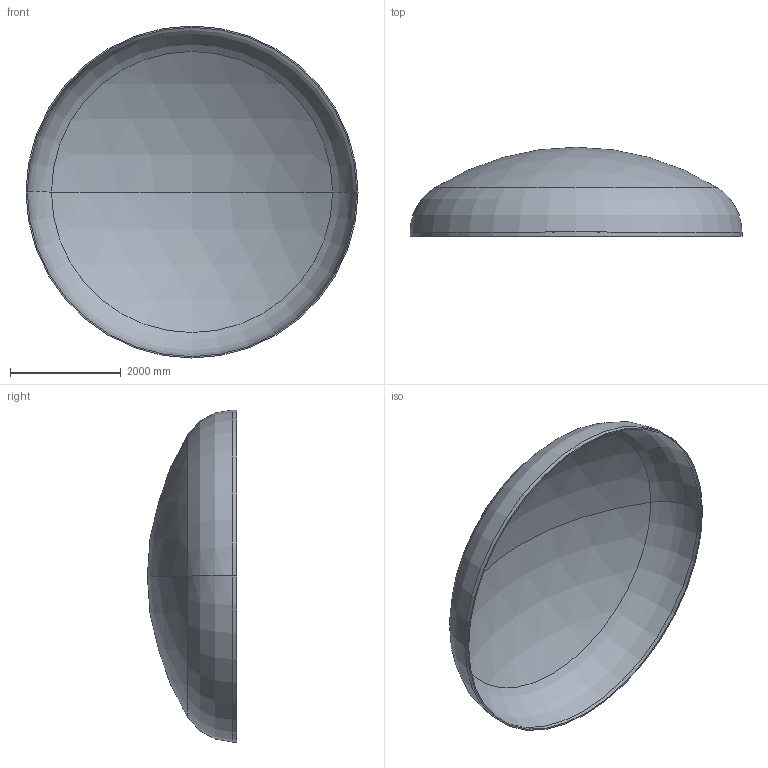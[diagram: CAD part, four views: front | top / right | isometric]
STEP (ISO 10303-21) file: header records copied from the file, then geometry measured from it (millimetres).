
FILE_DESCRIPTION (( 'STEP AP203' ), '1' );
FILE_NAME ('DIN 28013 Korbbogenform_-_Boden DIN 28013 - 6000 x 75 - I - s=24.step', '2016-07-04T10:36:13', ( '' ), ( '' ), 'SwSTEP 2.0', 'SolidWorks 2013', '' );
FILE_SCHEMA (( 'CONFIG_CONTROL_DESIGN' ));
Length unit declared in the file: millimetre
Products named in the file (1): DIN 28013 Korbbogenform_-_Boden DIN 28013 - 6000 x 75 - I - s=24
Bounding box: 6000 x 1611.29 x 6000 mm (x, y, z)
Volume: 968910569.1 mm3; surface area: 81194301.2 mm2
Topology: 1 solids, 1 shells, 13 faces, 24 edges, 14 vertices
Faces by surface type: torus 4, cylinder 4, sphere 4, plane 1
Entity records: 407 total; most frequent: DIRECTION 72, CARTESIAN_POINT 52, ORIENTED_EDGE 48, AXIS2_PLACEMENT_3D 34, EDGE_CURVE 24, CIRCLE 20, VERTEX_POINT 14, EDGE_LOOP 14
